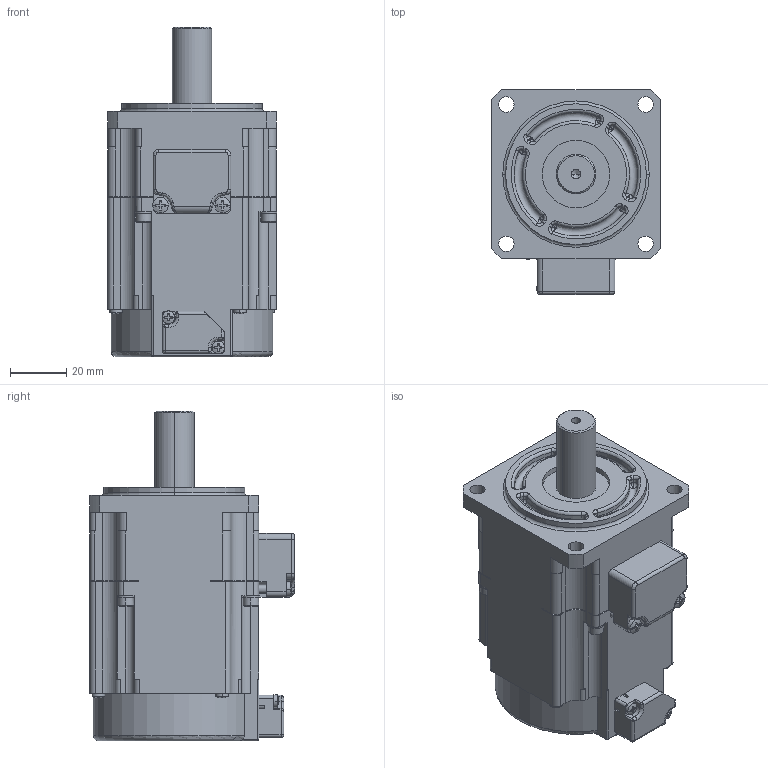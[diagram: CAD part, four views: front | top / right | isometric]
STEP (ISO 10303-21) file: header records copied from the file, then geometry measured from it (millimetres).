
FILE_DESCRIPTION((''),'2;1');
FILE_NAME('TSM4261N7800_OUTLINE','2024-02-15T09:58:13',('tec1068'),('Tamagawa Seiki Co.,LTD'),'CREO PARAMETRIC BY PTC INC, 2022484','CREO PARAMETRIC BY PTC INC, 2022484','');
FILE_SCHEMA(('AUTOMOTIVE_DESIGN { 1 0 10303 214 1 1 1 1 }'));
Length unit declared in the file: millimetre
Products named in the file (1): TSM4261N7800_OUTLINE
Bounding box: 60.3 x 72.85 x 117.2 mm (x, y, z)
Volume: 286762.5 mm3; surface area: 32354.4 mm2
Topology: 1 solids, 1 shells, 666 faces, 1754 edges, 1104 vertices
Faces by surface type: plane 316, cylinder 256, torus 36, bspline 27, sphere 19, cone 12
Entity records: 23347 total; most frequent: CARTESIAN_POINT 6277, DIRECTION 3703, ORIENTED_EDGE 3504, EDGE_CURVE 1752, AXIS2_PLACEMENT_3D 1374, VERTEX_POINT 1104, VECTOR 955, LINE 955
